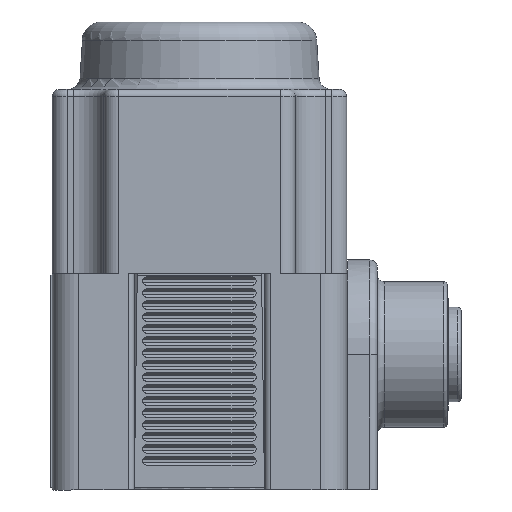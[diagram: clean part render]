
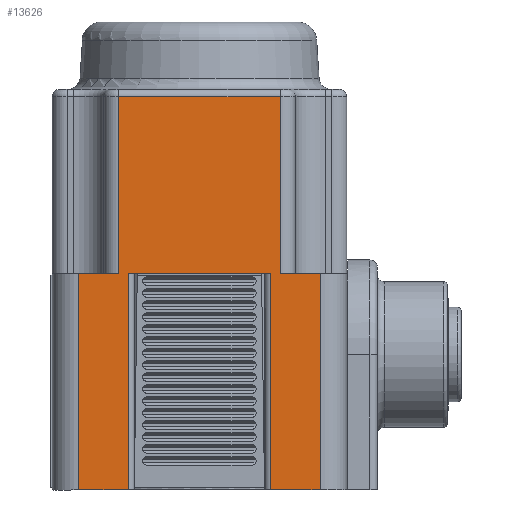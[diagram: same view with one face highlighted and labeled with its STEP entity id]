
A CAD part, left-side view. The second image highlights one B-rep face of the part: STEP entity #13626.
In plain terms, the highlighted planar face has unit normal (-1, 0, 0).
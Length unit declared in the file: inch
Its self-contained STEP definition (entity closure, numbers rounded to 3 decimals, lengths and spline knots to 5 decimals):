
#1578=LINE('',#23335,#2507);
#1591=LINE('',#23405,#2520);
#1714=LINE('',#24993,#2643);
#1732=LINE('',#25053,#2661);
#1733=LINE('',#25057,#2662);
#1736=LINE('',#25076,#2665);
#1749=LINE('',#25145,#2678);
#1750=LINE('',#25149,#2679);
#1751=LINE('',#25150,#2680);
#1752=LINE('',#25152,#2681);
#1753=LINE('',#25154,#2682);
#1754=LINE('',#25155,#2683);
#2507=VECTOR('',#18159,0.3937);
#2520=VECTOR('',#18242,0.3937);
#2643=VECTOR('',#18563,0.3937);
#2661=VECTOR('',#18635,0.3937);
#2662=VECTOR('',#18640,0.3937);
#2665=VECTOR('',#18661,0.3937);
#2678=VECTOR('',#18752,0.3937);
#2679=VECTOR('',#18757,0.3937);
#2680=VECTOR('',#18758,0.3937);
#2681=VECTOR('',#18759,0.3937);
#2682=VECTOR('',#18760,0.3937);
#2683=VECTOR('',#18761,0.3937);
#3492=FACE_OUTER_BOUND('',#4312,.T.);
#4312=EDGE_LOOP('',(#11663,#11664,#11665,#11666,#11667,#11668,#11669,#11670,
#11671,#11672,#11673,#11674));
#5881=VERTEX_POINT('',#23327);
#5883=VERTEX_POINT('',#23333);
#5905=VERTEX_POINT('',#23403);
#6041=VERTEX_POINT('',#24990);
#6042=VERTEX_POINT('',#24992);
#6057=VERTEX_POINT('',#25052);
#6058=VERTEX_POINT('',#25056);
#6065=VERTEX_POINT('',#25074);
#6082=VERTEX_POINT('',#25144);
#6083=VERTEX_POINT('',#25148);
#6084=VERTEX_POINT('',#25151);
#6085=VERTEX_POINT('',#25153);
#7644=EDGE_CURVE('',#5883,#5881,#1578,.T.);
#7680=EDGE_CURVE('',#5905,#5883,#1591,.T.);
#7889=EDGE_CURVE('',#6042,#6041,#1714,.T.);
#7919=EDGE_CURVE('',#6057,#5881,#1732,.T.);
#7921=EDGE_CURVE('',#6058,#6057,#1733,.T.);
#7931=EDGE_CURVE('',#5905,#6065,#1736,.T.);
#7965=EDGE_CURVE('',#6082,#6042,#1749,.T.);
#7967=EDGE_CURVE('',#6083,#6065,#1750,.T.);
#7968=EDGE_CURVE('',#6082,#6083,#1751,.T.);
#7969=EDGE_CURVE('',#6084,#6041,#1752,.T.);
#7970=EDGE_CURVE('',#6084,#6085,#1753,.T.);
#7971=EDGE_CURVE('',#6085,#6058,#1754,.T.);
#11663=ORIENTED_EDGE('',*,*,#7644,.F.);
#11664=ORIENTED_EDGE('',*,*,#7680,.F.);
#11665=ORIENTED_EDGE('',*,*,#7931,.T.);
#11666=ORIENTED_EDGE('',*,*,#7967,.F.);
#11667=ORIENTED_EDGE('',*,*,#7968,.F.);
#11668=ORIENTED_EDGE('',*,*,#7965,.T.);
#11669=ORIENTED_EDGE('',*,*,#7889,.T.);
#11670=ORIENTED_EDGE('',*,*,#7969,.F.);
#11671=ORIENTED_EDGE('',*,*,#7970,.T.);
#11672=ORIENTED_EDGE('',*,*,#7971,.T.);
#11673=ORIENTED_EDGE('',*,*,#7921,.T.);
#11674=ORIENTED_EDGE('',*,*,#7919,.T.);
#12176=PLANE('',#15043);
#13626=ADVANCED_FACE('',(#3492),#12176,.T.);
#15043=AXIS2_PLACEMENT_3D('',#25147,#18755,#18756);
#18159=DIRECTION('',(0.,-1.,0.));
#18242=DIRECTION('',(0.,0.,1.));
#18563=DIRECTION('',(0.,-1.,0.));
#18635=DIRECTION('',(0.,0.,1.));
#18640=DIRECTION('',(0.,1.,0.));
#18661=DIRECTION('',(0.,1.,0.));
#18752=DIRECTION('',(0.,0.,1.));
#18755=DIRECTION('center_axis',(-1.,0.,0.));
#18756=DIRECTION('ref_axis',(0.,0.,1.));
#18757=DIRECTION('',(0.,0.,1.));
#18758=DIRECTION('',(0.,1.,0.));
#18759=DIRECTION('',(0.,0.,1.));
#18760=DIRECTION('',(0.,-1.,0.));
#18761=DIRECTION('',(0.,0.,1.));
#23327=CARTESIAN_POINT('',(-0.8424,-0.32782,0.65855));
#23333=CARTESIAN_POINT('',(-0.8424,0.34018,0.65855));
#23335=CARTESIAN_POINT('',(-0.8424,0.34018,0.65855));
#23403=CARTESIAN_POINT('',(-0.8424,0.34018,-0.07345));
#23405=CARTESIAN_POINT('',(-0.8424,0.34018,-0.07345));
#24990=CARTESIAN_POINT('',(-0.8424,-0.28782,-0.07345));
#24992=CARTESIAN_POINT('',(-0.8424,0.30018,-0.07345));
#24993=CARTESIAN_POINT('',(-0.8424,0.30018,-0.07345));
#25052=CARTESIAN_POINT('',(-0.8424,-0.32782,-0.07345));
#25053=CARTESIAN_POINT('',(-0.8424,-0.32782,-0.07345));
#25056=CARTESIAN_POINT('',(-0.8424,-0.49282,-0.07345));
#25057=CARTESIAN_POINT('',(-0.8424,-0.49282,-0.07345));
#25074=CARTESIAN_POINT('',(-0.8424,0.50518,-0.07345));
#25076=CARTESIAN_POINT('',(-0.8424,0.34018,-0.07345));
#25144=CARTESIAN_POINT('',(-0.8424,0.30018,-0.96745));
#25145=CARTESIAN_POINT('',(-0.8424,0.30018,-0.96745));
#25147=CARTESIAN_POINT('Origin',(-0.8424,-0.49322,
-0.15445));
#25148=CARTESIAN_POINT('',(-0.8424,0.50518,-0.96745));
#25149=CARTESIAN_POINT('',(-0.8424,0.50518,-0.96745));
#25150=CARTESIAN_POINT('',(-0.8424,0.30018,-0.96745));
#25151=CARTESIAN_POINT('',(-0.8424,-0.28782,-0.96745));
#25152=CARTESIAN_POINT('',(-0.8424,-0.28782,-0.96745));
#25153=CARTESIAN_POINT('',(-0.8424,-0.49282,-0.96745));
#25154=CARTESIAN_POINT('',(-0.8424,-0.28782,-0.96745));
#25155=CARTESIAN_POINT('',(-0.8424,-0.49282,-0.96745));
